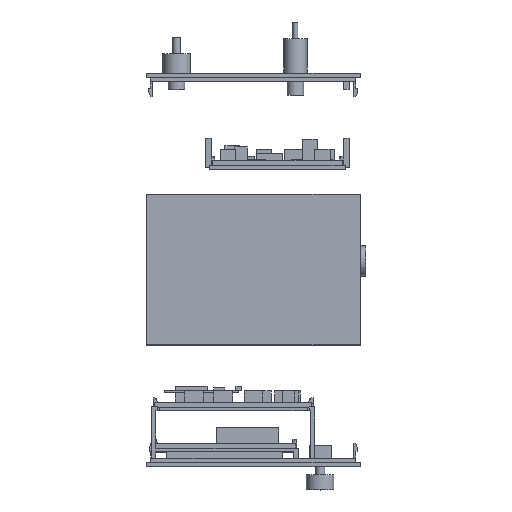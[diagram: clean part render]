
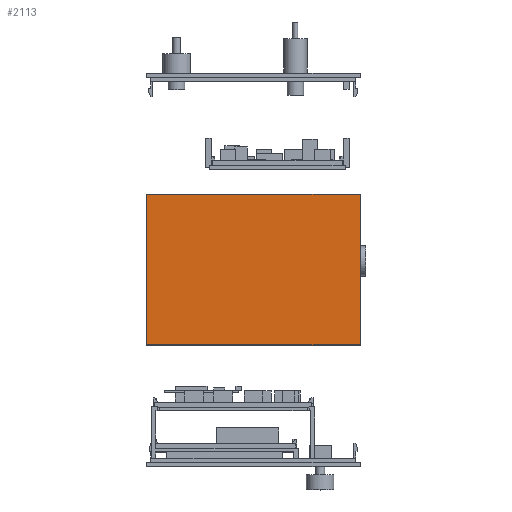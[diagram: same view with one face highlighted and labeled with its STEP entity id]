
A CAD part, top view. The second image highlights one B-rep face of the part: STEP entity #2113.
In plain terms, the highlighted planar face has unit normal (0, 0, 1).
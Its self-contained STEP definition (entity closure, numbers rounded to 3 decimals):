
#422 = VERTEX_POINT('',#423);
#423 = CARTESIAN_POINT('',(0.,3.,100.));
#430 = PLANE('',#431);
#431 = AXIS2_PLACEMENT_3D('',#432,#433,#434);
#432 = CARTESIAN_POINT('',(0.,3.,0.));
#433 = DIRECTION('',(1.,0.,0.));
#434 = DIRECTION('',(0.,0.,1.));
#442 = PLANE('',#443);
#443 = AXIS2_PLACEMENT_3D('',#444,#445,#446);
#444 = CARTESIAN_POINT('',(0.,3.,0.));
#445 = DIRECTION('',(0.,1.,0.));
#446 = DIRECTION('',(0.,0.,1.));
#483 = VERTEX_POINT('',#484);
#484 = CARTESIAN_POINT('',(0.,112.,100.));
#498 = PLANE('',#499);
#499 = AXIS2_PLACEMENT_3D('',#500,#501,#502);
#500 = CARTESIAN_POINT('',(0.,112.,0.));
#501 = DIRECTION('',(0.,1.,0.));
#502 = DIRECTION('',(0.,0.,1.));
#510 = EDGE_CURVE('',#422,#483,#511,.T.);
#511 = SURFACE_CURVE('',#512,(#516,#523),.PCURVE_S1.);
#512 = LINE('',#513,#514);
#513 = CARTESIAN_POINT('',(0.,3.,100.));
#514 = VECTOR('',#515,1.);
#515 = DIRECTION('',(0.,1.,0.));
#516 = PCURVE('',#430,#517);
#517 = DEFINITIONAL_REPRESENTATION('',(#518),#522);
#518 = LINE('',#519,#520);
#519 = CARTESIAN_POINT('',(100.,0.));
#520 = VECTOR('',#521,1.);
#521 = DIRECTION('',(0.,-1.));
#522 = ( GEOMETRIC_REPRESENTATION_CONTEXT(2) 
PARAMETRIC_REPRESENTATION_CONTEXT() REPRESENTATION_CONTEXT('2D SPACE',''
  ) );
#523 = PCURVE('',#524,#529);
#524 = PLANE('',#525);
#525 = AXIS2_PLACEMENT_3D('',#526,#527,#528);
#526 = CARTESIAN_POINT('',(0.,3.,100.));
#527 = DIRECTION('',(0.,0.,1.));
#528 = DIRECTION('',(1.,0.,0.));
#529 = DEFINITIONAL_REPRESENTATION('',(#530),#534);
#530 = LINE('',#531,#532);
#531 = CARTESIAN_POINT('',(0.,0.));
#532 = VECTOR('',#533,1.);
#533 = DIRECTION('',(0.,1.));
#534 = ( GEOMETRIC_REPRESENTATION_CONTEXT(2) 
PARAMETRIC_REPRESENTATION_CONTEXT() REPRESENTATION_CONTEXT('2D SPACE',''
  ) );
#1951 = EDGE_CURVE('',#422,#1952,#1954,.T.);
#1952 = VERTEX_POINT('',#1953);
#1953 = CARTESIAN_POINT('',(155.,3.,100.));
#1954 = SURFACE_CURVE('',#1955,(#1959,#1966),.PCURVE_S1.);
#1955 = LINE('',#1956,#1957);
#1956 = CARTESIAN_POINT('',(0.,3.,100.));
#1957 = VECTOR('',#1958,1.);
#1958 = DIRECTION('',(1.,0.,0.));
#1959 = PCURVE('',#442,#1960);
#1960 = DEFINITIONAL_REPRESENTATION('',(#1961),#1965);
#1961 = LINE('',#1962,#1963);
#1962 = CARTESIAN_POINT('',(100.,0.));
#1963 = VECTOR('',#1964,1.);
#1964 = DIRECTION('',(0.,1.));
#1965 = ( GEOMETRIC_REPRESENTATION_CONTEXT(2) 
PARAMETRIC_REPRESENTATION_CONTEXT() REPRESENTATION_CONTEXT('2D SPACE',''
  ) );
#1966 = PCURVE('',#524,#1967);
#1967 = DEFINITIONAL_REPRESENTATION('',(#1968),#1972);
#1968 = LINE('',#1969,#1970);
#1969 = CARTESIAN_POINT('',(0.,0.));
#1970 = VECTOR('',#1971,1.);
#1971 = DIRECTION('',(1.,0.));
#1972 = ( GEOMETRIC_REPRESENTATION_CONTEXT(2) 
PARAMETRIC_REPRESENTATION_CONTEXT() REPRESENTATION_CONTEXT('2D SPACE',''
  ) );
#1988 = PLANE('',#1989);
#1989 = AXIS2_PLACEMENT_3D('',#1990,#1991,#1992);
#1990 = CARTESIAN_POINT('',(155.,3.,0.));
#1991 = DIRECTION('',(1.,0.,0.));
#1992 = DIRECTION('',(0.,0.,1.));
#2113 = ADVANCED_FACE('',(#2114),#524,.T.);
#2114 = FACE_BOUND('',#2115,.T.);
#2115 = EDGE_LOOP('',(#2116,#2117,#2118,#2141));
#2116 = ORIENTED_EDGE('',*,*,#510,.F.);
#2117 = ORIENTED_EDGE('',*,*,#1951,.T.);
#2118 = ORIENTED_EDGE('',*,*,#2119,.T.);
#2119 = EDGE_CURVE('',#1952,#2120,#2122,.T.);
#2120 = VERTEX_POINT('',#2121);
#2121 = CARTESIAN_POINT('',(155.,112.,100.));
#2122 = SURFACE_CURVE('',#2123,(#2127,#2134),.PCURVE_S1.);
#2123 = LINE('',#2124,#2125);
#2124 = CARTESIAN_POINT('',(155.,3.,100.));
#2125 = VECTOR('',#2126,1.);
#2126 = DIRECTION('',(0.,1.,0.));
#2127 = PCURVE('',#524,#2128);
#2128 = DEFINITIONAL_REPRESENTATION('',(#2129),#2133);
#2129 = LINE('',#2130,#2131);
#2130 = CARTESIAN_POINT('',(155.,0.));
#2131 = VECTOR('',#2132,1.);
#2132 = DIRECTION('',(0.,1.));
#2133 = ( GEOMETRIC_REPRESENTATION_CONTEXT(2) 
PARAMETRIC_REPRESENTATION_CONTEXT() REPRESENTATION_CONTEXT('2D SPACE',''
  ) );
#2134 = PCURVE('',#1988,#2135);
#2135 = DEFINITIONAL_REPRESENTATION('',(#2136),#2140);
#2136 = LINE('',#2137,#2138);
#2137 = CARTESIAN_POINT('',(100.,0.));
#2138 = VECTOR('',#2139,1.);
#2139 = DIRECTION('',(0.,-1.));
#2140 = ( GEOMETRIC_REPRESENTATION_CONTEXT(2) 
PARAMETRIC_REPRESENTATION_CONTEXT() REPRESENTATION_CONTEXT('2D SPACE',''
  ) );
#2141 = ORIENTED_EDGE('',*,*,#2142,.F.);
#2142 = EDGE_CURVE('',#483,#2120,#2143,.T.);
#2143 = SURFACE_CURVE('',#2144,(#2148,#2155),.PCURVE_S1.);
#2144 = LINE('',#2145,#2146);
#2145 = CARTESIAN_POINT('',(0.,112.,100.));
#2146 = VECTOR('',#2147,1.);
#2147 = DIRECTION('',(1.,0.,0.));
#2148 = PCURVE('',#524,#2149);
#2149 = DEFINITIONAL_REPRESENTATION('',(#2150),#2154);
#2150 = LINE('',#2151,#2152);
#2151 = CARTESIAN_POINT('',(0.,109.));
#2152 = VECTOR('',#2153,1.);
#2153 = DIRECTION('',(1.,0.));
#2154 = ( GEOMETRIC_REPRESENTATION_CONTEXT(2) 
PARAMETRIC_REPRESENTATION_CONTEXT() REPRESENTATION_CONTEXT('2D SPACE',''
  ) );
#2155 = PCURVE('',#498,#2156);
#2156 = DEFINITIONAL_REPRESENTATION('',(#2157),#2161);
#2157 = LINE('',#2158,#2159);
#2158 = CARTESIAN_POINT('',(100.,0.));
#2159 = VECTOR('',#2160,1.);
#2160 = DIRECTION('',(0.,1.));
#2161 = ( GEOMETRIC_REPRESENTATION_CONTEXT(2) 
PARAMETRIC_REPRESENTATION_CONTEXT() REPRESENTATION_CONTEXT('2D SPACE',''
  ) );
